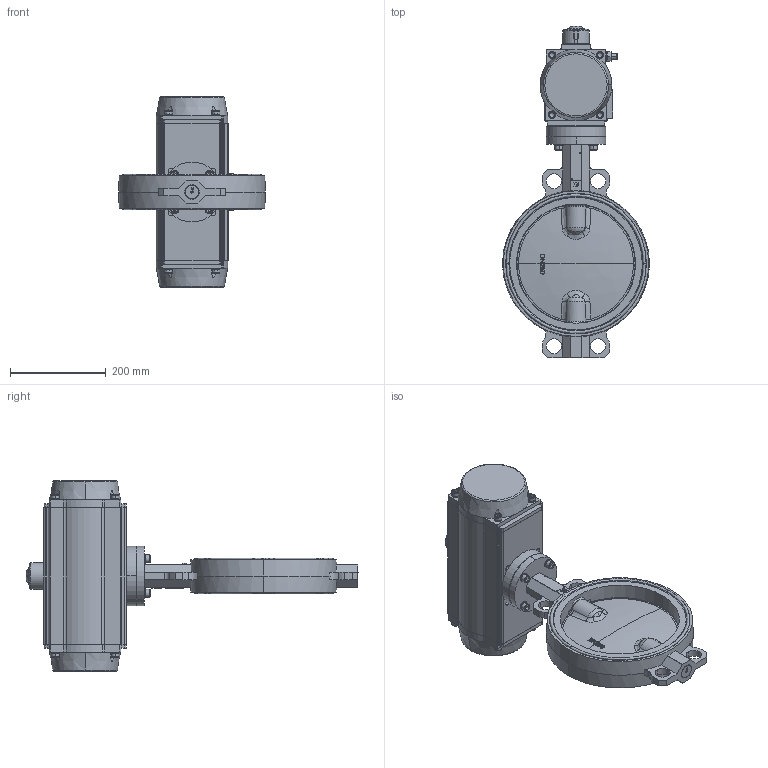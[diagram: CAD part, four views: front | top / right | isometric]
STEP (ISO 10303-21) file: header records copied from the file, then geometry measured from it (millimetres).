
FILE_DESCRIPTION (( 'STEP AP203' ), '1' );
FILE_NAME ('VPI-N03 DN 250.step', '2016-09-29T15:08:55', ( 'TECOFI' ), ( '' ), 'SwSTEP 2.0', 'SolidWorks 2014', '' );
FILE_SCHEMA (( 'CONFIG_CONTROL_DESIGN' ));
Length unit declared in the file: millimetre
Products named in the file (1): VPI-N03 DN 250
Bounding box: 307 x 693.57 x 398 mm (x, y, z)
Volume: 6539480.2 mm3; surface area: 1192117.9 mm2
Topology: 57 solids, 57 shells, 2438 faces, 6349 edges, 4134 vertices
Faces by surface type: plane 925, cylinder 776, bspline 459, cone 254, torus 24
Entity records: 111631 total; most frequent: CARTESIAN_POINT 54481, ORIENTED_EDGE 12622, DIRECTION 10873, EDGE_CURVE 6311, VERTEX_POINT 4134, AXIS2_PLACEMENT_3D 4072, LINE 2729, VECTOR 2729
